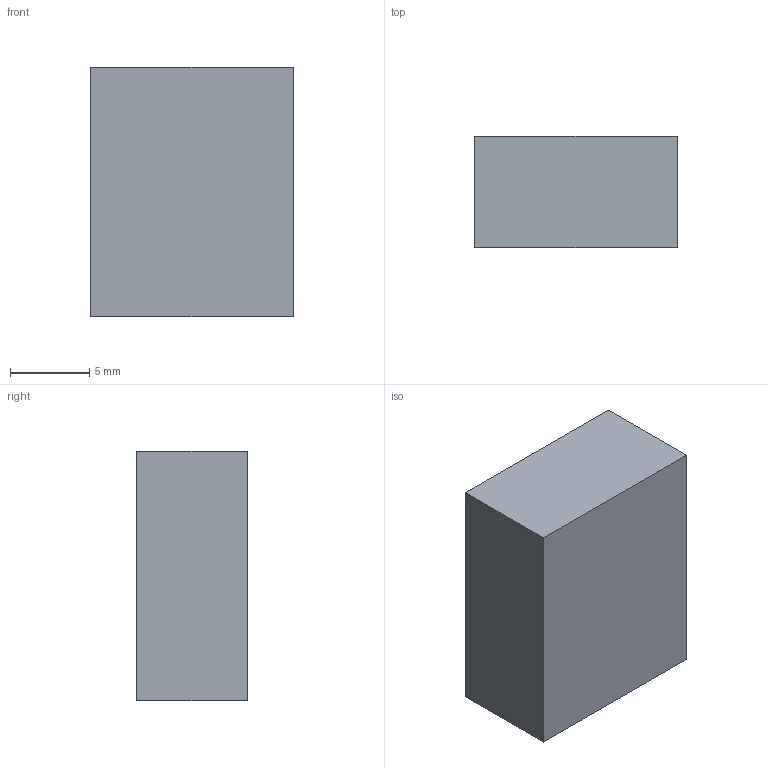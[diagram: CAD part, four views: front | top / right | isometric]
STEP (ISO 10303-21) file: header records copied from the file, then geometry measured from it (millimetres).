
FILE_DESCRIPTION(('Open CASCADE Model'),'2;1');
FILE_NAME('Open CASCADE Shape Model','2026-09-24T05:33:17',('Author'),( 'Open CASCADE'),'Open CASCADE STEP processor 7.8','Open CASCADE 7.8' ,'Unknown');
FILE_SCHEMA(('AUTOMOTIVE_DESIGN { 1 0 10303 214 1 1 1 1 }'));
Length unit declared in the file: millimetre
Products named in the file (1): Open CASCADE STEP translator 7.8 18
Bounding box: 12.8 x 7 x 15.8 mm (x, y, z)
Volume: 1415.7 mm3; surface area: 804.9 mm2
Topology: 1 solids, 1 shells, 6 faces, 12 edges, 8 vertices
Faces by surface type: plane 6
Entity records: 322 total; most frequent: CARTESIAN_POINT 51, DIRECTION 50, LINE 36, VECTOR 36, ORIENTED_EDGE 24, PCURVE 24, DEFINITIONAL_REPRESENTATION 24, EDGE_CURVE 12
